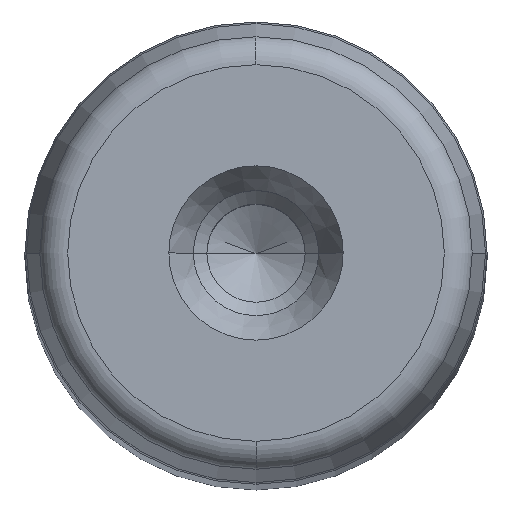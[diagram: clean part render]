
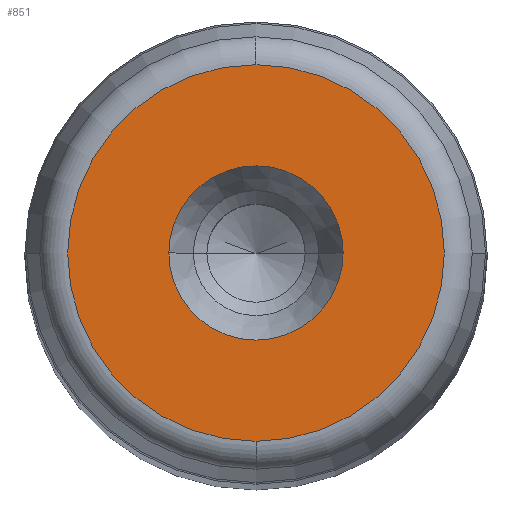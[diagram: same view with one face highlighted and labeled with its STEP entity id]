
A CAD part, top view. The second image highlights one B-rep face of the part: STEP entity #851.
In plain terms, the highlighted planar face has unit normal (0, 0, 1) as drawn and (0, 1, 0) by its records, which use the part's own axes.
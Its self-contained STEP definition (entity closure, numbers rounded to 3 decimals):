
#281=CARTESIAN_POINT('',(9.05,355.0,0.0));
#282=VERTEX_POINT('',#281);
#289=CARTESIAN_POINT('',(-9.05,355.0,0.));
#290=VERTEX_POINT('',#289);
#291=CARTESIAN_POINT('',(0.0,355.0,0.0));
#292=DIRECTION('',(0.0,1.0,0.0));
#293=DIRECTION('',(1.0,0.0,0.0));
#294=AXIS2_PLACEMENT_3D('',#291,#292,#293);
#295=CIRCLE('',#294,9.05);
#296=EDGE_CURVE('',#282,#290,#295,.T.);
#313=CARTESIAN_POINT('',(0.0,355.,19.554));
#314=VERTEX_POINT('',#313);
#324=CARTESIAN_POINT('',(0.,355.,-19.554));
#325=VERTEX_POINT('',#324);
#326=CARTESIAN_POINT('',(0.0,355.,0.0));
#327=DIRECTION('',(0.0,1.0,0.0));
#328=DIRECTION('',(1.0,0.0,0.0));
#329=AXIS2_PLACEMENT_3D('',#326,#327,#328);
#330=CIRCLE('',#329,19.554);
#331=EDGE_CURVE('',#325,#314,#330,.T.);
#812=CARTESIAN_POINT('',(19.554,355.,0.0));
#813=VERTEX_POINT('',#812);
#814=CARTESIAN_POINT('',(0.0,355.,0.0));
#815=DIRECTION('',(0.0,1.0,0.0));
#816=DIRECTION('',(1.0,0.0,0.0));
#817=AXIS2_PLACEMENT_3D('',#814,#815,#816);
#818=CIRCLE('',#817,19.554);
#819=EDGE_CURVE('',#813,#325,#818,.T.);
#821=CARTESIAN_POINT('',(0.0,355.,0.0));
#822=DIRECTION('',(0.0,1.0,0.0));
#823=DIRECTION('',(1.0,0.0,0.0));
#824=AXIS2_PLACEMENT_3D('',#821,#822,#823);
#825=CIRCLE('',#824,19.554);
#826=EDGE_CURVE('',#314,#813,#825,.T.);
#831=CARTESIAN_POINT('',(-21.51,355.0,-21.51));
#832=DIRECTION('',(0.0,1.0,0.0));
#833=DIRECTION('',(0.0,0.0,1.0));
#834=AXIS2_PLACEMENT_3D('',#831,#832,#833);
#835=PLANE('',#834);
#836=ORIENTED_EDGE('',*,*,#819,.T.);
#837=ORIENTED_EDGE('',*,*,#331,.T.);
#838=ORIENTED_EDGE('',*,*,#826,.T.);
#839=EDGE_LOOP('',(#836,#837,#838));
#840=FACE_OUTER_BOUND('',#839,.T.);
#841=ORIENTED_EDGE('',*,*,#296,.F.);
#842=CARTESIAN_POINT('',(0.0,355.0,0.0));
#843=DIRECTION('',(0.0,1.0,0.0));
#844=DIRECTION('',(1.0,0.0,0.0));
#845=AXIS2_PLACEMENT_3D('',#842,#843,#844);
#846=CIRCLE('',#845,9.05);
#847=EDGE_CURVE('',#290,#282,#846,.T.);
#848=ORIENTED_EDGE('',*,*,#847,.F.);
#849=EDGE_LOOP('',(#841,#848));
#850=FACE_BOUND('',#849,.T.);
#851=ADVANCED_FACE('',(#840,#850),#835,.T.);
